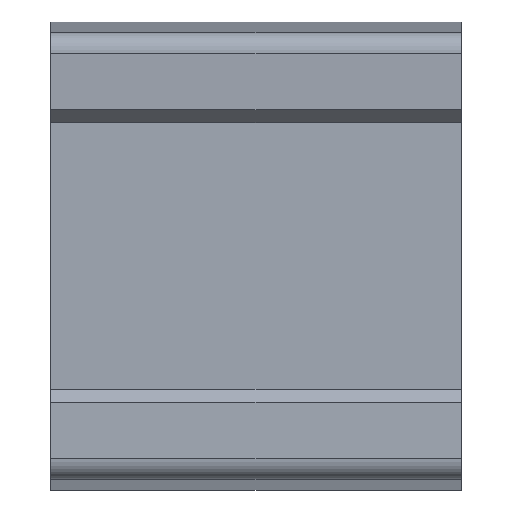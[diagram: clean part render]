
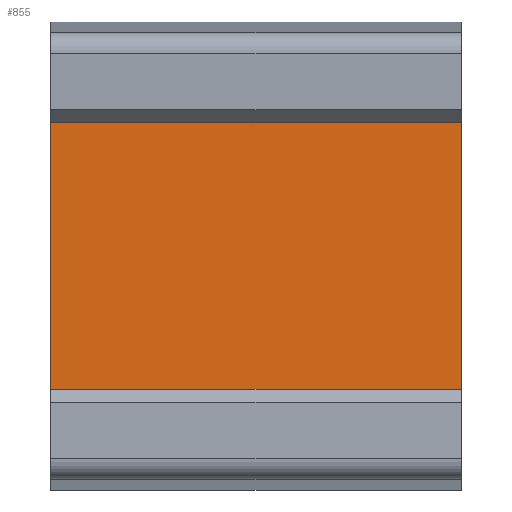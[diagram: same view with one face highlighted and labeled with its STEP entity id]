
A CAD part, front view. The second image highlights one B-rep face of the part: STEP entity #855.
In plain terms, the highlighted planar face has unit normal (0, -1, 0).
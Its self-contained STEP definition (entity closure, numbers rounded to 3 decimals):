
#32=PLANE('',#936);
#94=FACE_OUTER_BOUND('',#149,.T.);
#149=EDGE_LOOP('',(#666,#667,#668,#669));
#213=LINE('',#1302,#303);
#234=LINE('',#1370,#324);
#236=LINE('',#1376,#326);
#237=LINE('',#1377,#327);
#303=VECTOR('',#1037,10.);
#324=VECTOR('',#1094,10.);
#326=VECTOR('',#1100,10.);
#327=VECTOR('',#1101,10.);
#404=VERTEX_POINT('',#1299);
#405=VERTEX_POINT('',#1301);
#434=VERTEX_POINT('',#1369);
#436=VERTEX_POINT('',#1375);
#491=EDGE_CURVE('',#404,#405,#213,.T.);
#525=EDGE_CURVE('',#405,#434,#234,.T.);
#528=EDGE_CURVE('',#436,#404,#236,.T.);
#529=EDGE_CURVE('',#436,#434,#237,.T.);
#666=ORIENTED_EDGE('',*,*,#525,.F.);
#667=ORIENTED_EDGE('',*,*,#491,.F.);
#668=ORIENTED_EDGE('',*,*,#528,.F.);
#669=ORIENTED_EDGE('',*,*,#529,.T.);
#855=ADVANCED_FACE('',(#94),#32,.T.);
#936=AXIS2_PLACEMENT_3D('',#1374,#1098,#1099);
#1037=DIRECTION('',(0.,0.,1.));
#1094=DIRECTION('',(1.,0.,0.));
#1098=DIRECTION('center_axis',(0.,-1.,0.));
#1099=DIRECTION('ref_axis',(0.,0.,-1.));
#1100=DIRECTION('',(-1.,0.,0.));
#1101=DIRECTION('',(0.,0.,1.));
#1299=CARTESIAN_POINT('',(0.,-4.8,-11.772));
#1301=CARTESIAN_POINT('',(0.,-4.8,11.772));
#1302=CARTESIAN_POINT('',(0.,-4.8,-12.8));
#1369=CARTESIAN_POINT('',(31.,-4.8,11.772));
#1370=CARTESIAN_POINT('',(0.,-4.8,11.772));
#1374=CARTESIAN_POINT('Origin',(0.,-4.8,0.));
#1375=CARTESIAN_POINT('',(31.,-4.8,-11.772));
#1376=CARTESIAN_POINT('',(0.,-4.8,-11.772));
#1377=CARTESIAN_POINT('',(31.,-4.8,12.8));
